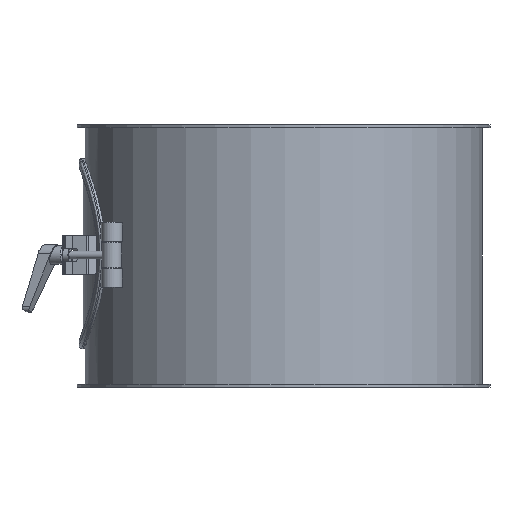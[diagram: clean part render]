
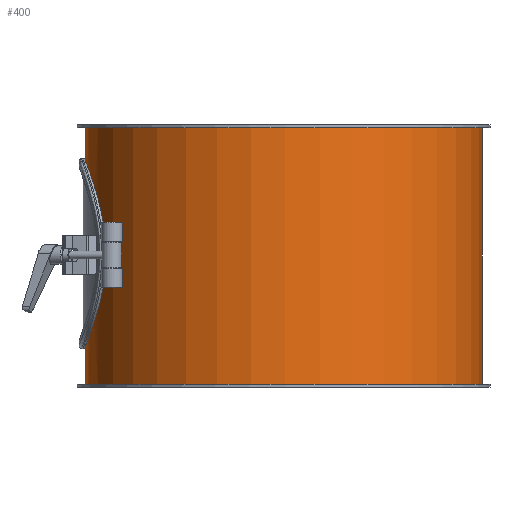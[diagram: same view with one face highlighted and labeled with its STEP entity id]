
A CAD part, front view. The second image highlights one B-rep face of the part: STEP entity #400.
In plain terms, the highlighted cylindrical face has radius 151.5 mm (diameter 303 mm), a full revolution.
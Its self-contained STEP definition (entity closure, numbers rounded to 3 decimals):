
#185=CARTESIAN_POINT('',(-140.164,-57.5,100.0));
#186=VERTEX_POINT('',#185);
#187=CARTESIAN_POINT('',(-140.164,-57.5,100.0));
#188=CARTESIAN_POINT('',(-140.164,-57.5,96.349));
#189=CARTESIAN_POINT('',(-140.311,-57.147,92.586));
#190=CARTESIAN_POINT('',(-140.902,-55.673,85.126));
#191=CARTESIAN_POINT('',(-141.346,-54.553,81.43));
#192=CARTESIAN_POINT('',(-142.447,-51.609,74.359));
#193=CARTESIAN_POINT('',(-143.105,-49.782,70.979));
#194=CARTESIAN_POINT('',(-144.5,-45.573,64.737));
#195=CARTESIAN_POINT('',(-145.236,-43.192,61.875));
#196=CARTESIAN_POINT('',(-146.647,-38.127,56.81));
#197=CARTESIAN_POINT('',(-147.373,-35.266,54.429));
#198=CARTESIAN_POINT('',(-148.728,-29.023,50.22));
#199=CARTESIAN_POINT('',(-149.357,-25.642,48.392));
#200=CARTESIAN_POINT('',(-150.4,-18.568,45.446));
#201=CARTESIAN_POINT('',(-150.815,-14.87,44.326));
#202=CARTESIAN_POINT('',(-151.365,-7.41,42.853));
#203=CARTESIAN_POINT('',(-151.5,-3.648,42.5));
#204=CARTESIAN_POINT('',(-151.5,3.648,42.5));
#205=CARTESIAN_POINT('',(-151.365,7.41,42.853));
#206=CARTESIAN_POINT('',(-150.815,14.87,44.326));
#207=CARTESIAN_POINT('',(-150.4,18.568,45.446));
#208=CARTESIAN_POINT('',(-149.357,25.642,48.392));
#209=CARTESIAN_POINT('',(-148.728,29.023,50.22));
#210=CARTESIAN_POINT('',(-147.373,35.266,54.429));
#211=CARTESIAN_POINT('',(-146.647,38.127,56.81));
#212=CARTESIAN_POINT('',(-145.236,43.192,61.875));
#213=CARTESIAN_POINT('',(-144.5,45.573,64.737));
#214=CARTESIAN_POINT('',(-143.105,49.782,70.979));
#215=CARTESIAN_POINT('',(-142.447,51.609,74.359));
#216=CARTESIAN_POINT('',(-141.346,54.553,81.43));
#217=CARTESIAN_POINT('',(-140.902,55.673,85.126));
#218=CARTESIAN_POINT('',(-140.311,57.147,92.586));
#219=CARTESIAN_POINT('',(-140.164,57.5,96.349));
#220=CARTESIAN_POINT('',(-140.164,57.5,103.651));
#221=CARTESIAN_POINT('',(-140.311,57.147,107.414));
#222=CARTESIAN_POINT('',(-140.902,55.673,114.874));
#223=CARTESIAN_POINT('',(-141.346,54.553,118.57));
#224=CARTESIAN_POINT('',(-142.447,51.609,125.641));
#225=CARTESIAN_POINT('',(-143.105,49.782,129.021));
#226=CARTESIAN_POINT('',(-144.5,45.573,135.263));
#227=CARTESIAN_POINT('',(-145.236,43.192,138.125));
#228=CARTESIAN_POINT('',(-146.647,38.127,143.19));
#229=CARTESIAN_POINT('',(-147.373,35.266,145.571));
#230=CARTESIAN_POINT('',(-148.728,29.023,149.78));
#231=CARTESIAN_POINT('',(-149.357,25.642,151.608));
#232=CARTESIAN_POINT('',(-150.4,18.568,154.554));
#233=CARTESIAN_POINT('',(-150.815,14.87,155.674));
#234=CARTESIAN_POINT('',(-151.365,7.41,157.147));
#235=CARTESIAN_POINT('',(-151.5,3.648,157.5));
#236=CARTESIAN_POINT('',(-151.5,-3.648,157.5));
#237=CARTESIAN_POINT('',(-151.365,-7.41,157.147));
#238=CARTESIAN_POINT('',(-150.815,-14.87,155.674));
#239=CARTESIAN_POINT('',(-150.4,-18.568,154.554));
#240=CARTESIAN_POINT('',(-149.357,-25.642,151.608));
#241=CARTESIAN_POINT('',(-148.728,-29.023,149.78));
#242=CARTESIAN_POINT('',(-147.373,-35.266,145.571));
#243=CARTESIAN_POINT('',(-146.647,-38.127,143.19));
#244=CARTESIAN_POINT('',(-145.236,-43.192,138.125));
#245=CARTESIAN_POINT('',(-144.5,-45.573,135.263));
#246=CARTESIAN_POINT('',(-143.105,-49.782,129.021));
#247=CARTESIAN_POINT('',(-142.447,-51.609,125.641));
#248=CARTESIAN_POINT('',(-141.346,-54.553,118.57));
#249=CARTESIAN_POINT('',(-140.902,-55.673,114.874));
#250=CARTESIAN_POINT('',(-140.311,-57.147,107.414));
#251=CARTESIAN_POINT('',(-140.164,-57.5,103.651));
#252=CARTESIAN_POINT('',(-140.164,-57.5,100.0));
#253=B_SPLINE_CURVE_WITH_KNOTS('',3,(#187,#188,#189,#190,#191,#192,#193,#194,#195,#196,#197,#198,#199,#200,#201,#202,#203,#204,#205,#206,#207,#208,#209,#210,#211,#212,#213,#214,#215,#216,#217,#218,#219,#220,#221,#222,#223,#224,#225,#226,#227,#228,#229,#230,#231,#232,#233,#234,#235,#236,#237,#238,#239,#240,#241,#242,#243,#244,#245,#246,#247,#248,#249,#250,#251,#252),.UNSPECIFIED.,.T.,.U.,(4,2,2,2,2,2,2,2,2,2,2,2,2,2,2,2,2,2,2,2,2,2,2,2,2,2,2,2,2,2,2,2,4),(0.0,1.095,2.191,3.286,4.382,5.476,6.571,7.665,8.76,9.854,10.949,12.043,13.138,14.233,15.329,16.424,17.52,18.615,19.71,20.806,21.901,22.996,24.09,25.185,26.279,27.374,28.469,29.563,30.658,31.753,32.848,33.944,35.039),.UNSPECIFIED.);
#254=EDGE_CURVE('',#186,#186,#253,.T.);
#295=CARTESIAN_POINT('',(151.5,0.,198.0));
#296=VERTEX_POINT('',#295);
#297=CARTESIAN_POINT('',(0.0,0.0,198.0));
#298=DIRECTION('',(0.0,0.0,-1.0));
#299=DIRECTION('',(-1.0,0.0,0.0));
#300=AXIS2_PLACEMENT_3D('',#297,#298,#299);
#301=CIRCLE('',#300,151.5);
#302=EDGE_CURVE('',#296,#296,#301,.T.);
#343=CARTESIAN_POINT('',(-151.5,0.,2.0));
#344=VERTEX_POINT('',#343);
#345=CARTESIAN_POINT('',(0.0,0.0,2.0));
#346=DIRECTION('',(0.0,0.0,1.0));
#347=DIRECTION('',(-1.0,0.0,0.0));
#348=AXIS2_PLACEMENT_3D('',#345,#346,#347);
#349=CIRCLE('',#348,151.5);
#350=EDGE_CURVE('',#344,#344,#349,.T.);
#386=CARTESIAN_POINT('',(0.0,0.0,0.0));
#387=DIRECTION('',(0.0,0.0,1.0));
#388=DIRECTION('',(-1.0,0.0,0.0));
#389=AXIS2_PLACEMENT_3D('',#386,#387,#388);
#390=CYLINDRICAL_SURFACE('',#389,151.5);
#391=ORIENTED_EDGE('',*,*,#302,.T.);
#392=EDGE_LOOP('',(#391));
#393=FACE_OUTER_BOUND('',#392,.T.);
#394=ORIENTED_EDGE('',*,*,#254,.T.);
#395=EDGE_LOOP('',(#394));
#396=FACE_BOUND('',#395,.T.);
#397=ORIENTED_EDGE('',*,*,#350,.T.);
#398=EDGE_LOOP('',(#397));
#399=FACE_BOUND('',#398,.T.);
#400=ADVANCED_FACE('',(#393,#396,#399),#390,.T.);
